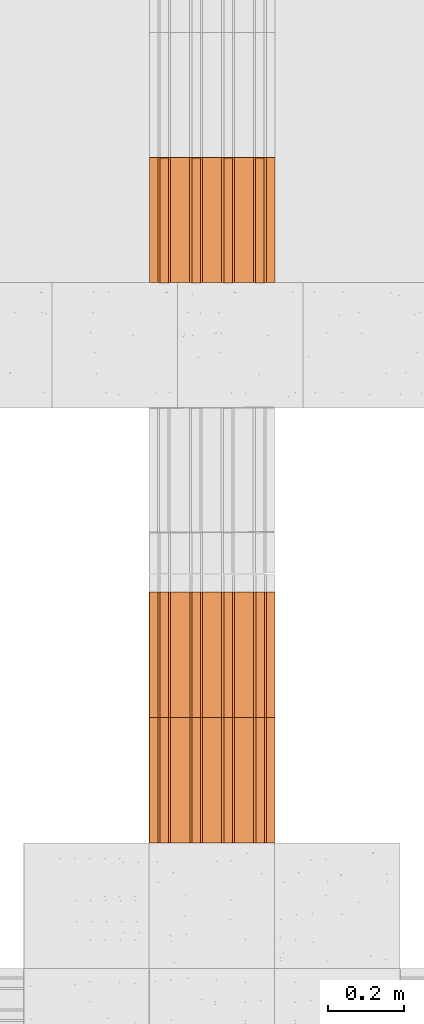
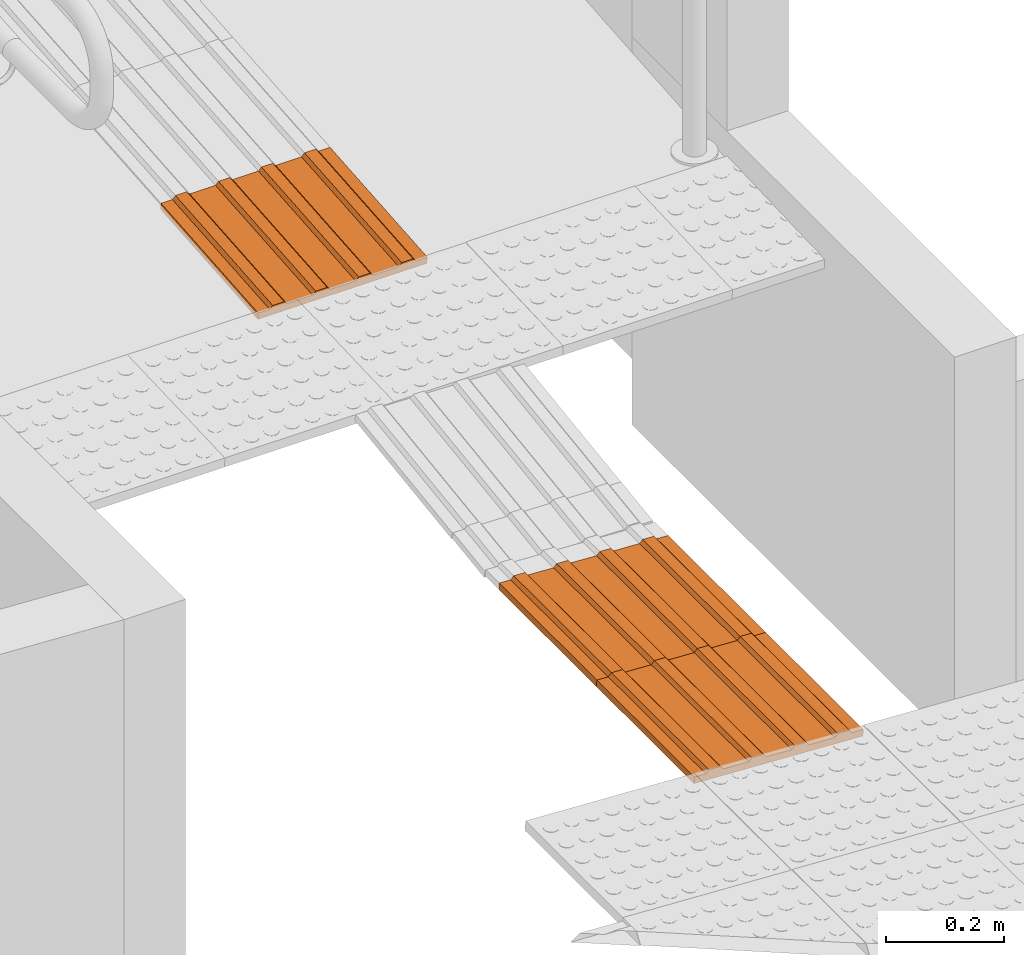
# One storey, part 174 of 237: 3 proxies.
"""IFC2X3 building model written with IfcOpenShell, lengths in millimetres."""

from ifc_helpers import new_model, entity, si_unit, converted_unit, derived_unit, money_unit, direction, frame, origin_with_axes, place, context, subcontext, project, spatial, open_shell, surface_model, source, transform, mapped, type_object, element, save


model = new_model("IFC2X3")

# Units and contexts
model_context = context("Model", 3, precision=0.01, world=origin_with_axes(), true_north=direction((0.0, 1.0)))
body_context = subcontext(model_context, "Body", "Model", "MODEL_VIEW")
ifc_project = project(units=[si_unit("LENGTHUNIT", "METRE", prefix="MILLI"), si_unit("AREAUNIT", "SQUARE_METRE"), si_unit("VOLUMEUNIT", "CUBIC_METRE"), converted_unit("PLANEANGLEUNIT", "DEGREE", entity("IfcPlaneAngleMeasure", 0.0174532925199), si_unit("PLANEANGLEUNIT", "RADIAN"), dimensions=[0, 0, 0, 0, 0, 0, 0]), money_unit("USD"), converted_unit("TIMEUNIT", "Year", entity("IfcTimeMeasure", 31556926.0), si_unit("TIMEUNIT", "SECOND"), dimensions=[0, 0, 1, 0, 0, 0, 0]), si_unit("MASSUNIT", "GRAM", prefix="KILO"), si_unit("THERMODYNAMICTEMPERATUREUNIT", "DEGREE_CELSIUS"), si_unit("LUMINOUSINTENSITYUNIT", "LUMEN"), si_unit("ENERGYUNIT", "JOULE", prefix="MEGA"), derived_unit("THERMALCONDUCTANCEUNIT", [(si_unit("POWERUNIT", "WATT"), 1), (si_unit("LENGTHUNIT", "METRE"), -1), (si_unit("THERMODYNAMICTEMPERATUREUNIT", "KELVIN"), -1)]), derived_unit("SPECIFICHEATCAPACITYUNIT", [(si_unit("ENERGYUNIT", "JOULE"), 1), (si_unit("MASSUNIT", "GRAM", prefix="KILO"), -1), (si_unit("THERMODYNAMICTEMPERATUREUNIT", "KELVIN"), -1)]), derived_unit("MASSDENSITYUNIT", [(si_unit("MASSUNIT", "GRAM", prefix="KILO"), 1), (si_unit("VOLUMEUNIT", "CUBIC_METRE"), -1)])], contexts=[model_context])

# Site, building, storey
site_placement = place(None, origin_with_axes())
site = spatial("IfcSite", under=ifc_project, at=site_placement, Name="Local", CompositionType="ELEMENT")
building_placement = place(site_placement, origin_with_axes())
building = spatial("IfcBuilding", under=site, at=building_placement, Name="Construção", CompositionType="ELEMENT")
storey_placement = place(building_placement, origin_with_axes())
storey = spatial("IfcBuildingStorey", under=building, at=storey_placement, Name="Pavimento Térreo", CompositionType="ELEMENT", Elevation=0.0)

# Proxies
building_element_proxy_type = type_object("IfcBuildingElementProxyType", Name="Piso Direcional 27", PredefinedType="NOTDEFINED")
shared_shape_1 = source(origin_with_axes(), body_context, "Body", "SurfaceModel", [
    surface_model("IfcShellBasedSurfaceModel", [(0.0, -46.9837561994, 6.48810385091), (330.0, -46.9837561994, 6.48810385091), (330.0, -41.0504057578, 12.8539432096), (0.0, -41.0504057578, 12.8539432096)], [open_shell([[[0, 1, 2, 3]]])]),
    surface_model("IfcShellBasedSurfaceModel", [(330.0, -153.805759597, -1.28379652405), (330.0, 175.744996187, -18.4971448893), (330.0, 176.44048501, -5.18196283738), (330.0, 154.098060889, -4.01495616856), (330.0, 148.860199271, 2.9343865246), (330.0, 126.51777515, 4.10139319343), (330.0, 120.584424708, -2.26444616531), (330.0, 70.3139704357, 0.361318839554), (330.0, 65.0761088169, 7.31066153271), (330.0, 42.7336846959, 8.47766820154), (330.0, 36.8003342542, 2.1118288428), (330.0, -13.470120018, 4.73759384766), (330.0, -18.7079816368, 11.6869365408), (330.0, -41.0504057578, 12.8539432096), (330.0, -46.9837561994, 6.48810385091), (330.0, -97.2542104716, 9.11386885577), (330.0, -102.49207209, 16.0632115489), (330.0, -124.834496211, 17.2302182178), (330.0, -130.767846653, 10.864378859), (330.0, -153.110270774, 12.0313855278)], [open_shell([[[0, 1, 2, 3, 4, 5, 6, 7, 8, 9, 10, 11, 12, 13, 14, 15, 16, 17, 18, 19]]])]),
    surface_model("IfcShellBasedSurfaceModel", [(0.0, -18.7079816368, 11.6869365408), (330.0, -18.7079816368, 11.6869365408), (330.0, -13.470120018, 4.73759384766), (0.0, -13.470120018, 4.73759384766)], [open_shell([[[0, 1, 2, 3]]])]),
    surface_model("IfcShellBasedSurfaceModel", [(0.0, -102.49207209, 16.0632115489), (330.0, -102.49207209, 16.0632115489), (330.0, -97.2542104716, 9.11386885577), (0.0, -97.2542104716, 9.11386885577)], [open_shell([[[0, 1, 2, 3]]])]),
    surface_model("IfcShellBasedSurfaceModel", [(0.0, 65.0761088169, 7.31066153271), (330.0, 65.0761088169, 7.31066153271), (330.0, 70.3139704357, 0.361318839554), (0.0, 70.3139704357, 0.361318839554)], [open_shell([[[0, 1, 2, 3]]])]),
    surface_model("IfcShellBasedSurfaceModel", [(0.0, 36.8003342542, 2.1118288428), (330.0, 36.8003342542, 2.1118288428), (330.0, 42.7336846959, 8.47766820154), (0.0, 42.7336846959, 8.47766820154)], [open_shell([[[0, 1, 2, 3]]])]),
    surface_model("IfcShellBasedSurfaceModel", [(0.0, -130.767846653, 10.864378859), (330.0, -130.767846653, 10.864378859), (330.0, -124.834496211, 17.2302182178), (0.0, -124.834496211, 17.2302182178)], [open_shell([[[0, 1, 2, 3]]])]),
    surface_model("IfcShellBasedSurfaceModel", [(0.0, 176.44048501, -5.18196283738), (0.0, 154.098060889, -4.01495616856), (330.0, 154.098060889, -4.01495616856), (330.0, 176.44048501, -5.18196283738)], [open_shell([[[0, 1, 2, 3]]])]),
    surface_model("IfcShellBasedSurfaceModel", [(0.0, 120.584424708, -2.26444616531), (330.0, 120.584424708, -2.26444616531), (330.0, 126.51777515, 4.10139319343), (0.0, 126.51777515, 4.10139319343)], [open_shell([[[0, 1, 2, 3]]])]),
    surface_model("IfcShellBasedSurfaceModel", [(0.0, 148.860199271, 2.9343865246), (330.0, 148.860199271, 2.9343865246), (330.0, 154.098060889, -4.01495616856), (0.0, 154.098060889, -4.01495616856)], [open_shell([[[0, 1, 2, 3]]])]),
    surface_model("IfcShellBasedSurfaceModel", [(0.0, 36.8003342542, 2.1118288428), (0.0, -13.470120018, 4.73759384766), (330.0, -13.470120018, 4.73759384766), (330.0, 36.8003342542, 2.1118288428)], [open_shell([[[0, 1, 2, 3]]])]),
    surface_model("IfcShellBasedSurfaceModel", [(0.0, 120.584424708, -2.26444616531), (0.0, 70.3139704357, 0.361318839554), (330.0, 70.3139704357, 0.361318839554), (330.0, 120.584424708, -2.26444616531)], [open_shell([[[0, 1, 2, 3]]])]),
    surface_model("IfcShellBasedSurfaceModel", [(0.0, 148.860199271, 2.9343865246), (0.0, 126.51777515, 4.10139319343), (330.0, 126.51777515, 4.10139319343), (330.0, 148.860199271, 2.9343865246)], [open_shell([[[0, 1, 2, 3]]])]),
    surface_model("IfcShellBasedSurfaceModel", [(0.0, 120.584424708, -2.26444616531), (0.0, 126.51777515, 4.10139319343), (0.0, 148.860199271, 2.9343865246), (0.0, 154.098060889, -4.01495616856), (0.0, 176.44048501, -5.18196283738), (0.0, 175.744996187, -18.4971448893), (0.0, -153.805759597, -1.28379652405), (0.0, -153.110270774, 12.0313855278), (0.0, -130.767846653, 10.864378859), (0.0, -124.834496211, 17.2302182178), (0.0, -102.49207209, 16.0632115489), (0.0, -97.2542104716, 9.11386885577), (0.0, -46.9837561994, 6.48810385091), (0.0, -41.0504057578, 12.8539432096), (0.0, -18.7079816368, 11.6869365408), (0.0, -13.470120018, 4.73759384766), (0.0, 36.8003342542, 2.1118288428), (0.0, 42.7336846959, 8.47766820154), (0.0, 65.0761088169, 7.31066153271), (0.0, 70.3139704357, 0.361318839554)], [open_shell([[[0, 1, 2, 3, 4, 5, 6, 7, 8, 9, 10, 11, 12, 13, 14, 15, 16, 17, 18, 19]]])]),
    surface_model("IfcShellBasedSurfaceModel", [(330.0, -41.0504057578, 12.8539432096), (330.0, -18.7079816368, 11.6869365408), (0.0, -18.7079816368, 11.6869365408), (0.0, -41.0504057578, 12.8539432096)], [open_shell([[[0, 1, 2, 3]]])]),
    surface_model("IfcShellBasedSurfaceModel", [(0.0, -46.9837561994, 6.48810385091), (0.0, -97.2542104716, 9.11386885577), (330.0, -97.2542104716, 9.11386885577), (330.0, -46.9837561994, 6.48810385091)], [open_shell([[[0, 1, 2, 3]]])]),
    surface_model("IfcShellBasedSurfaceModel", [(330.0, 42.7336846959, 8.47766820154), (330.0, 65.0761088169, 7.31066153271), (0.0, 65.0761088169, 7.31066153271), (0.0, 42.7336846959, 8.47766820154)], [open_shell([[[0, 1, 2, 3]]])]),
    surface_model("IfcShellBasedSurfaceModel", [(330.0, -124.834496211, 17.2302182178), (330.0, -102.49207209, 16.0632115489), (0.0, -102.49207209, 16.0632115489), (0.0, -124.834496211, 17.2302182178)], [open_shell([[[0, 1, 2, 3]]])]),
    surface_model("IfcShellBasedSurfaceModel", [(330.0, 175.744996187, -18.4971448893), (0.0, 175.744996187, -18.4971448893), (0.0, 176.44048501, -5.18196283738), (330.0, 176.44048501, -5.18196283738)], [open_shell([[[0, 1, 2, 3]]])]),
    surface_model("IfcShellBasedSurfaceModel", [(330.0, -153.805759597, -1.28379652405), (0.0, -153.805759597, -1.28379652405), (0.0, 175.744996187, -18.4971448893), (330.0, 175.744996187, -18.4971448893)], [open_shell([[[0, 1, 2, 3]]])]),
    surface_model("IfcShellBasedSurfaceModel", [(330.0, -153.110270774, 12.0313855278), (330.0, -130.767846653, 10.864378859), (0.0, -130.767846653, 10.864378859), (0.0, -153.110270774, 12.0313855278)], [open_shell([[[0, 1, 2, 3]]])]),
    surface_model("IfcShellBasedSurfaceModel", [(0.0, -153.805759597, -1.28379652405), (330.0, -153.805759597, -1.28379652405), (330.0, -153.110270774, 12.0313855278), (0.0, -153.110270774, 12.0313855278)], [open_shell([[[0, 1, 2, 3]]])]),
])
for number, where, z_axis, x_axis, name in (
    (1, (84125.2908196, 11977.6236011, -5339.84149169), (0.0, 0.0, 1.0), (0.0, -1.0, 0.0), "Objeto-0055"),
    (2, (84125.2908196, 11647.6236011, -5339.84149169), (0.0, 0.0, 1.0), (0.0, -1.0, 0.0), "Objeto-0055"),
):
    element("IfcBuildingElementProxy", number, at=place(storey_placement, frame(where, z_axis=z_axis, x_axis=x_axis)), inside=storey, type_object=building_element_proxy_type, Name=name, context=body_context, shape_type="MappedRepresentation", body=[
        mapped(shared_shape_1, transform((0.0, 0.0, 0.0))),
    ])
shared_shape_2 = source(origin_with_axes(), body_context, "Body", "SurfaceModel", [
    surface_model("IfcShellBasedSurfaceModel", [(-0.333594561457, -47.258225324, 4.01468455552), (328.533021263, -47.258225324, 31.3413930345), (327.980966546, -41.665004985, 37.9851630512), (-0.885649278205, -41.665004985, 10.6584545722)], [open_shell([[[0, 1, 2, 3]]])]),
    surface_model("IfcShellBasedSurfaceModel", [(329.637130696, -153.529411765, 18.0538530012), (329.637130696, 176.470588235, 18.0538530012), (328.533021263, 176.470588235, 31.3413930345), (328.533021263, 154.097706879, 31.3413930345), (327.980966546, 148.50448654, 37.9851630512), (327.980966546, 126.131605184, 37.9851630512), (328.533021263, 120.538384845, 31.3413930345), (328.533021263, 70.1994017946, 31.3413930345), (327.980966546, 64.6061814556, 37.9851630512), (327.980966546, 42.2333000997, 37.9851630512), (328.533021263, 36.6400797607, 31.3413930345), (328.533021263, -13.6989032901, 31.3413930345), (327.980966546, -19.2921236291, 37.9851630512), (327.980966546, -41.665004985, 37.9851630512), (328.533021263, -47.258225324, 31.3413930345), (328.533021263, -97.5972083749, 31.3413930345), (327.980966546, -103.190428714, 37.9851630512), (327.980966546, -125.56331007, 37.9851630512), (328.533021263, -131.156530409, 31.3413930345), (328.533021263, -153.529411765, 31.3413930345)], [open_shell([[[0, 1, 2, 3, 4, 5, 6, 7, 8, 9, 10, 11, 12, 13, 14, 15, 16, 17, 18, 19]]])]),
    surface_model("IfcShellBasedSurfaceModel", [(-0.885649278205, -19.2921236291, 10.6584545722), (327.980966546, -19.2921236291, 37.9851630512), (328.533021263, -13.6989032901, 31.3413930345), (-0.333594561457, -13.6989032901, 4.01468455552)], [open_shell([[[0, 1, 2, 3]]])]),
    surface_model("IfcShellBasedSurfaceModel", [(-0.885649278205, -103.190428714, 10.6584545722), (327.980966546, -103.190428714, 37.9851630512), (328.533021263, -97.5972083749, 31.3413930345), (-0.333594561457, -97.5972083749, 4.01468455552)], [open_shell([[[0, 1, 2, 3]]])]),
    surface_model("IfcShellBasedSurfaceModel", [(-0.885649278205, 64.6061814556, 10.6584545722), (327.980966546, 64.6061814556, 37.9851630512), (328.533021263, 70.1994017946, 31.3413930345), (-0.333594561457, 70.1994017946, 4.01468455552)], [open_shell([[[0, 1, 2, 3]]])]),
    surface_model("IfcShellBasedSurfaceModel", [(-0.333594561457, 36.6400797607, 4.01468455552), (328.533021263, 36.6400797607, 31.3413930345), (327.980966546, 42.2333000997, 37.9851630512), (-0.885649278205, 42.2333000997, 10.6584545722)], [open_shell([[[0, 1, 2, 3]]])]),
    surface_model("IfcShellBasedSurfaceModel", [(-0.333594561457, -131.156530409, 4.01468455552), (328.533021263, -131.156530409, 31.3413930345), (327.980966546, -125.56331007, 37.9851630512), (-0.885649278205, -125.56331007, 10.6584545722)], [open_shell([[[0, 1, 2, 3]]])]),
    surface_model("IfcShellBasedSurfaceModel", [(-0.333594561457, 176.470588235, 4.01468455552), (-0.333594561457, 154.097706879, 4.01468455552), (328.533021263, 154.097706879, 31.3413930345), (328.533021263, 176.470588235, 31.3413930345)], [open_shell([[[0, 1, 2, 3]]])]),
    surface_model("IfcShellBasedSurfaceModel", [(-0.333594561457, 120.538384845, 4.01468455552), (328.533021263, 120.538384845, 31.3413930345), (327.980966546, 126.131605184, 37.9851630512), (-0.885649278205, 126.131605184, 10.6584545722)], [open_shell([[[0, 1, 2, 3]]])]),
    surface_model("IfcShellBasedSurfaceModel", [(-0.885649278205, 148.50448654, 10.6584545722), (327.980966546, 148.50448654, 37.9851630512), (328.533021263, 154.097706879, 31.3413930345), (-0.333594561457, 154.097706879, 4.01468455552)], [open_shell([[[0, 1, 2, 3]]])]),
    surface_model("IfcShellBasedSurfaceModel", [(-0.333594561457, 36.6400797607, 4.01468455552), (-0.333594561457, -13.6989032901, 4.01468455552), (328.533021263, -13.6989032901, 31.3413930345), (328.533021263, 36.6400797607, 31.3413930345)], [open_shell([[[0, 1, 2, 3]]])]),
    surface_model("IfcShellBasedSurfaceModel", [(-0.333594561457, 120.538384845, 4.01468455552), (-0.333594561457, 70.1994017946, 4.01468455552), (328.533021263, 70.1994017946, 31.3413930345), (328.533021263, 120.538384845, 31.3413930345)], [open_shell([[[0, 1, 2, 3]]])]),
    surface_model("IfcShellBasedSurfaceModel", [(-0.885649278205, 148.50448654, 10.6584545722), (-0.885649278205, 126.131605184, 10.6584545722), (327.980966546, 126.131605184, 37.9851630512), (327.980966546, 148.50448654, 37.9851630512)], [open_shell([[[0, 1, 2, 3]]])]),
    surface_model("IfcShellBasedSurfaceModel", [(-0.333594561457, 120.538384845, 4.01468455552), (-0.885649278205, 126.131605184, 10.6584545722), (-0.885649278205, 148.50448654, 10.6584545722), (-0.333594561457, 154.097706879, 4.01468455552), (-0.333594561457, 176.470588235, 4.01468455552), (0.770514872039, 176.470588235, -9.27285547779), (0.770514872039, -153.529411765, -9.27285547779), (-0.333594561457, -153.529411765, 4.01468455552), (-0.333594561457, -131.156530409, 4.01468455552), (-0.885649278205, -125.56331007, 10.6584545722), (-0.885649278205, -103.190428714, 10.6584545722), (-0.333594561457, -97.5972083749, 4.01468455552), (-0.333594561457, -47.258225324, 4.01468455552), (-0.885649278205, -41.665004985, 10.6584545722), (-0.885649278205, -19.2921236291, 10.6584545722), (-0.333594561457, -13.6989032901, 4.01468455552), (-0.333594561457, 36.6400797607, 4.01468455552), (-0.885649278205, 42.2333000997, 10.6584545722), (-0.885649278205, 64.6061814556, 10.6584545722), (-0.333594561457, 70.1994017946, 4.01468455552)], [open_shell([[[0, 1, 2, 3, 4, 5, 6, 7, 8, 9, 10, 11, 12, 13, 14, 15, 16, 17, 18, 19]]])]),
    surface_model("IfcShellBasedSurfaceModel", [(327.980966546, -41.665004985, 37.9851630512), (327.980966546, -19.2921236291, 37.9851630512), (-0.885649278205, -19.2921236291, 10.6584545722), (-0.885649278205, -41.665004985, 10.6584545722)], [open_shell([[[0, 1, 2, 3]]])]),
    surface_model("IfcShellBasedSurfaceModel", [(-0.333594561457, -47.258225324, 4.01468455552), (-0.333594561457, -97.5972083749, 4.01468455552), (328.533021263, -97.5972083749, 31.3413930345), (328.533021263, -47.258225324, 31.3413930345)], [open_shell([[[0, 1, 2, 3]]])]),
    surface_model("IfcShellBasedSurfaceModel", [(327.980966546, 42.2333000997, 37.9851630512), (327.980966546, 64.6061814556, 37.9851630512), (-0.885649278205, 64.6061814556, 10.6584545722), (-0.885649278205, 42.2333000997, 10.6584545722)], [open_shell([[[0, 1, 2, 3]]])]),
    surface_model("IfcShellBasedSurfaceModel", [(327.980966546, -125.56331007, 37.9851630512), (327.980966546, -103.190428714, 37.9851630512), (-0.885649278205, -103.190428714, 10.6584545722), (-0.885649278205, -125.56331007, 10.6584545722)], [open_shell([[[0, 1, 2, 3]]])]),
    surface_model("IfcShellBasedSurfaceModel", [(329.637130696, 176.470588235, 18.0538530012), (0.770514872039, 176.470588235, -9.27285547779), (-0.333594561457, 176.470588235, 4.01468455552), (328.533021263, 176.470588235, 31.3413930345)], [open_shell([[[0, 1, 2, 3]]])]),
    surface_model("IfcShellBasedSurfaceModel", [(329.637130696, -153.529411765, 18.0538530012), (0.770514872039, -153.529411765, -9.27285547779), (0.770514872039, 176.470588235, -9.27285547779), (329.637130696, 176.470588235, 18.0538530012)], [open_shell([[[0, 1, 2, 3]]])]),
    surface_model("IfcShellBasedSurfaceModel", [(328.533021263, -153.529411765, 31.3413930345), (328.533021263, -131.156530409, 31.3413930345), (-0.333594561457, -131.156530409, 4.01468455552), (-0.333594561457, -153.529411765, 4.01468455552)], [open_shell([[[0, 1, 2, 3]]])]),
    surface_model("IfcShellBasedSurfaceModel", [(0.770514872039, -153.529411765, -9.27285547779), (329.637130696, -153.529411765, 18.0538530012), (328.533021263, -153.529411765, 31.3413930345), (-0.333594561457, -153.529411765, 4.01468455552)], [open_shell([[[0, 1, 2, 3]]])]),
])
proxy_placement = place(storey_placement, frame((84148.2330476, 12791.2219361, -5268.45942542), z_axis=(0.0, 0.0, 1.0), x_axis=(0.0, 1.0, 0.0)))
element("IfcBuildingElementProxy", 3, at=proxy_placement, inside=storey, type_object=building_element_proxy_type, Name="Objeto-0055", context=body_context, shape_type="MappedRepresentation", body=[
    mapped(shared_shape_2, transform((0.0, 0.0, 0.0))),
])

save(model, "model.ifc")
